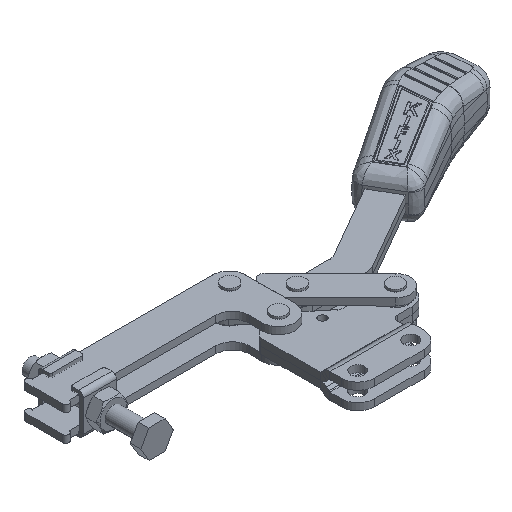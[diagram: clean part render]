
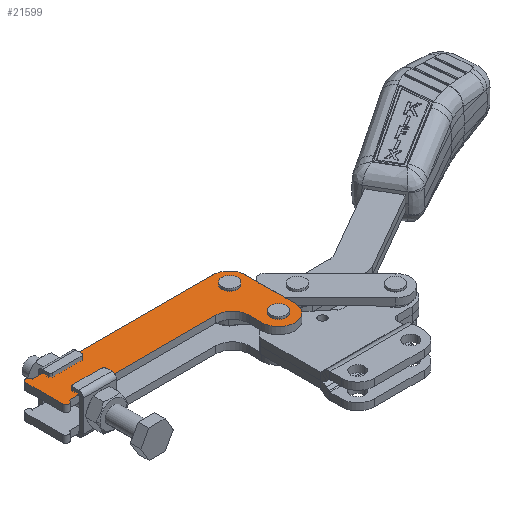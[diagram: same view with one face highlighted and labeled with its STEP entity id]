
A CAD part, isometric view. The second image highlights one B-rep face of the part: STEP entity #21599.
In plain terms, the highlighted planar face has unit normal (0, 0, 1) as drawn and (0, 0, -1) by its records, which use the part's own axes.
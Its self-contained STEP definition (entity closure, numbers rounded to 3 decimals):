
#8 = DIRECTION ( 'NONE',  ( 1., 0., 0. ) ) ;
#353 = CARTESIAN_POINT ( 'NONE',  ( 60., 28.7, -4.25 ) ) ;
#504 = VERTEX_POINT ( 'NONE', #13865 ) ;
#1090 = CARTESIAN_POINT ( 'NONE',  ( 80., -1., -4.25 ) ) ;
#1147 = AXIS2_PLACEMENT_3D ( 'NONE', #6436, #19360, #8284 ) ;
#1300 = AXIS2_PLACEMENT_3D ( 'NONE', #5014, #12435, #1440 ) ;
#1364 = VERTEX_POINT ( 'NONE', #7235 ) ;
#1440 = DIRECTION ( 'NONE',  ( -1., 0., 0. ) ) ;
#1472 = AXIS2_PLACEMENT_3D ( 'NONE', #13087, #2088, #14960 ) ;
#1563 = CARTESIAN_POINT ( 'NONE',  ( 4., -11., -4.25 ) ) ;
#1944 = CARTESIAN_POINT ( 'NONE',  ( 60., 21., -4.25 ) ) ;
#2071 = CIRCLE ( 'NONE', #10057, 2. ) ;
#2088 = DIRECTION ( 'NONE',  ( 0., 0., -1. ) ) ;
#2403 = CARTESIAN_POINT ( 'NONE',  ( -40.5, 11., -4.25 ) ) ;
#2618 = CARTESIAN_POINT ( 'NONE',  ( 60., 28.7, -4.25 ) ) ;
#2802 = AXIS2_PLACEMENT_3D ( 'NONE', #7059, #19996, #8911 ) ;
#2898 = VERTEX_POINT ( 'NONE', #18954 ) ;
#4217 = VECTOR ( 'NONE', #18116, 1000. ) ;
#4218 = DIRECTION ( 'NONE',  ( -1., 0., 0. ) ) ;
#4494 = CARTESIAN_POINT ( 'NONE',  ( -42.5, 11., -4.25 ) ) ;
#4537 = EDGE_CURVE ( 'NONE', #10939, #23742, #20986, .T. ) ;
#4747 = CARTESIAN_POINT ( 'NONE',  ( -42.5, 11., -4.25 ) ) ;
#4811 = DIRECTION ( 'NONE',  ( 0., 0., 1. ) ) ;
#4822 = CARTESIAN_POINT ( 'NONE',  ( -38.5, 11., -4.25 ) ) ;
#4987 = VECTOR ( 'NONE', #19692, 1000. ) ;
#5014 = CARTESIAN_POINT ( 'NONE',  ( 2., 11., -4.25 ) ) ;
#5428 = ORIENTED_EDGE ( 'NONE', *, *, #8833, .F. ) ;
#5452 = VERTEX_POINT ( 'NONE', #1944 ) ;
#5480 = AXIS2_PLACEMENT_3D ( 'NONE', #20403, #9343, #22278 ) ;
#5504 = CARTESIAN_POINT ( 'NONE',  ( 74., 28.7, -4.25 ) ) ;
#5515 = EDGE_LOOP ( 'NONE', ( #15354, #7807 ) ) ;
#6351 = DIRECTION ( 'NONE',  ( 0., 0., 1. ) ) ;
#6436 = CARTESIAN_POINT ( 'NONE',  ( 70., -1., -4.25 ) ) ;
#6485 = DIRECTION ( 'NONE',  ( 0., 0., 1. ) ) ;
#6735 = EDGE_LOOP ( 'NONE', ( #7233, #7018 ) ) ;
#6752 = CIRCLE ( 'NONE', #2802, 4. ) ;
#6784 = EDGE_CURVE ( 'NONE', #20528, #1364, #15730, .T. ) ;
#7018 = ORIENTED_EDGE ( 'NONE', *, *, #13986, .T. ) ;
#7059 = CARTESIAN_POINT ( 'NONE',  ( 70., 28.7, -4.25 ) ) ;
#7137 = VECTOR ( 'NONE', #19259, 1000. ) ;
#7233 = ORIENTED_EDGE ( 'NONE', *, *, #9399, .T. ) ;
#7235 = CARTESIAN_POINT ( 'NONE',  ( 74., -0.7, -4.25 ) ) ;
#7253 = ORIENTED_EDGE ( 'NONE', *, *, #16806, .F. ) ;
#7269 = VERTEX_POINT ( 'NONE', #17631 ) ;
#7324 = ORIENTED_EDGE ( 'NONE', *, *, #23239, .F. ) ;
#7807 = ORIENTED_EDGE ( 'NONE', *, *, #6784, .T. ) ;
#8284 = DIRECTION ( 'NONE',  ( 1., 0., 0. ) ) ;
#8457 = CIRCLE ( 'NONE', #1147, 10. ) ;
#8833 = EDGE_CURVE ( 'NONE', #2898, #18472, #8457, .T. ) ;
#8911 = DIRECTION ( 'NONE',  ( 1., 0., 0. ) ) ;
#9126 = LINE ( 'NONE', #1563, #4217 ) ;
#9309 = DIRECTION ( 'NONE',  ( -1., 0., 0. ) ) ;
#9343 = DIRECTION ( 'NONE',  ( 0., 0., 1. ) ) ;
#9399 = EDGE_CURVE ( 'NONE', #18519, #504, #11906, .T. ) ;
#9756 = ORIENTED_EDGE ( 'NONE', *, *, #4537, .F. ) ;
#9992 = CIRCLE ( 'NONE', #5480, 2. ) ;
#10008 = EDGE_CURVE ( 'NONE', #1364, #20528, #17400, .T. ) ;
#10057 = AXIS2_PLACEMENT_3D ( 'NONE', #2403, #15267, #4218 ) ;
#10597 = EDGE_CURVE ( 'NONE', #23714, #17465, #21924, .T. ) ;
#10939 = VERTEX_POINT ( 'NONE', #17068 ) ;
#10990 = DIRECTION ( 'NONE',  ( 0., 0., 1. ) ) ;
#11739 = VECTOR ( 'NONE', #9309, 1000. ) ;
#11811 = EDGE_CURVE ( 'NONE', #17465, #7269, #9992, .T. ) ;
#11906 = CIRCLE ( 'NONE', #21684, 4. ) ;
#12234 = EDGE_CURVE ( 'NONE', #7269, #2898, #9126, .T. ) ;
#12417 = CIRCLE ( 'NONE', #1472, 10. ) ;
#12435 = DIRECTION ( 'NONE',  ( 0., 0., -1. ) ) ;
#12942 = CARTESIAN_POINT ( 'NONE',  ( 50., 11., -4.25 ) ) ;
#13087 = CARTESIAN_POINT ( 'NONE',  ( 50., 21., -4.25 ) ) ;
#13421 = AXIS2_PLACEMENT_3D ( 'NONE', #15895, #4811, #17736 ) ;
#13565 = VERTEX_POINT ( 'NONE', #353 ) ;
#13616 = FACE_OUTER_BOUND ( 'NONE', #23758, .T. ) ;
#13865 = CARTESIAN_POINT ( 'NONE',  ( 66., 28.7, -4.25 ) ) ;
#13986 = EDGE_CURVE ( 'NONE', #504, #18519, #6752, .T. ) ;
#14457 = VECTOR ( 'NONE', #20985, 1000. ) ;
#14806 = CARTESIAN_POINT ( 'NONE',  ( -42.5, -11., -4.25 ) ) ;
#14960 = DIRECTION ( 'NONE',  ( -1., 0., 0. ) ) ;
#15267 = DIRECTION ( 'NONE',  ( 0., 0., 1. ) ) ;
#15354 = ORIENTED_EDGE ( 'NONE', *, *, #10008, .T. ) ;
#15730 = CIRCLE ( 'NONE', #13421, 4. ) ;
#15895 = CARTESIAN_POINT ( 'NONE',  ( 70., -0.7, -4.25 ) ) ;
#16806 = EDGE_CURVE ( 'NONE', #18472, #23517, #19730, .T. ) ;
#17051 = ORIENTED_EDGE ( 'NONE', *, *, #23146, .F. ) ;
#17068 = CARTESIAN_POINT ( 'NONE',  ( 50., 11., -4.25 ) ) ;
#17370 = ORIENTED_EDGE ( 'NONE', *, *, #10597, .F. ) ;
#17400 = CIRCLE ( 'NONE', #23577, 4. ) ;
#17436 = CARTESIAN_POINT ( 'NONE',  ( 70., 28.7, -4.25 ) ) ;
#17465 = VERTEX_POINT ( 'NONE', #14806 ) ;
#17563 = CARTESIAN_POINT ( 'NONE',  ( 70., 28.7, -4.25 ) ) ;
#17631 = CARTESIAN_POINT ( 'NONE',  ( -38.5, -11., -4.25 ) ) ;
#17736 = DIRECTION ( 'NONE',  ( 1., 0., 0. ) ) ;
#18116 = DIRECTION ( 'NONE',  ( 1., 0., 0. ) ) ;
#18205 = LINE ( 'NONE', #2618, #14457 ) ;
#18472 = VERTEX_POINT ( 'NONE', #21895 ) ;
#18519 = VERTEX_POINT ( 'NONE', #5504 ) ;
#18814 = CARTESIAN_POINT ( 'NONE',  ( 66., -0.7, -4.25 ) ) ;
#18845 = EDGE_CURVE ( 'NONE', #13565, #5452, #18205, .T. ) ;
#18954 = CARTESIAN_POINT ( 'NONE',  ( 70., -11., -4.25 ) ) ;
#18982 = ORIENTED_EDGE ( 'NONE', *, *, #18845, .F. ) ;
#19259 = DIRECTION ( 'NONE',  ( 0., -1., 0. ) ) ;
#19279 = DIRECTION ( 'NONE',  ( 1., 0., 0. ) ) ;
#19360 = DIRECTION ( 'NONE',  ( 0., 0., 1. ) ) ;
#19425 = DIRECTION ( 'NONE',  ( 1., 0., 0. ) ) ;
#19513 = ORIENTED_EDGE ( 'NONE', *, *, #12234, .F. ) ;
#19692 = DIRECTION ( 'NONE',  ( 0., 1., 0. ) ) ;
#19730 = LINE ( 'NONE', #1090, #4987 ) ;
#19829 = ORIENTED_EDGE ( 'NONE', *, *, #11811, .F. ) ;
#19996 = DIRECTION ( 'NONE',  ( 0., 0., 1. ) ) ;
#20234 = ORIENTED_EDGE ( 'NONE', *, *, #23604, .F. ) ;
#20403 = CARTESIAN_POINT ( 'NONE',  ( -40.5, -11., -4.25 ) ) ;
#20528 = VERTEX_POINT ( 'NONE', #18814 ) ;
#20727 = CARTESIAN_POINT ( 'NONE',  ( 80., 28.7, -4.25 ) ) ;
#20740 = AXIS2_PLACEMENT_3D ( 'NONE', #17436, #6351, #19279 ) ;
#20985 = DIRECTION ( 'NONE',  ( 0., -1., 0. ) ) ;
#20986 = LINE ( 'NONE', #12942, #11739 ) ;
#21599 = ADVANCED_FACE ( 'NONE', ( #22888, #23468, #13616 ), #23522, .T. ) ;
#21684 = AXIS2_PLACEMENT_3D ( 'NONE', #17563, #6485, #19425 ) ;
#21895 = CARTESIAN_POINT ( 'NONE',  ( 80., -1., -4.25 ) ) ;
#21924 = LINE ( 'NONE', #4494, #7137 ) ;
#21954 = CIRCLE ( 'NONE', #20740, 10. ) ;
#22068 = CARTESIAN_POINT ( 'NONE',  ( 70., -0.7, -4.25 ) ) ;
#22278 = DIRECTION ( 'NONE',  ( 1., 0., 0. ) ) ;
#22888 = FACE_BOUND ( 'NONE', #5515, .T. ) ;
#23146 = EDGE_CURVE ( 'NONE', #5452, #10939, #12417, .T. ) ;
#23239 = EDGE_CURVE ( 'NONE', #23742, #23714, #2071, .T. ) ;
#23468 = FACE_BOUND ( 'NONE', #6735, .T. ) ;
#23517 = VERTEX_POINT ( 'NONE', #20727 ) ;
#23522 = PLANE ( 'NONE',  #1300 ) ;
#23577 = AXIS2_PLACEMENT_3D ( 'NONE', #22068, #10990, #8 ) ;
#23604 = EDGE_CURVE ( 'NONE', #23517, #13565, #21954, .T. ) ;
#23714 = VERTEX_POINT ( 'NONE', #4747 ) ;
#23742 = VERTEX_POINT ( 'NONE', #4822 ) ;
#23758 = EDGE_LOOP ( 'NONE', ( #7324, #9756, #17051, #18982, #20234, #7253, #5428, #19513, #19829, #17370 ) ) ;
